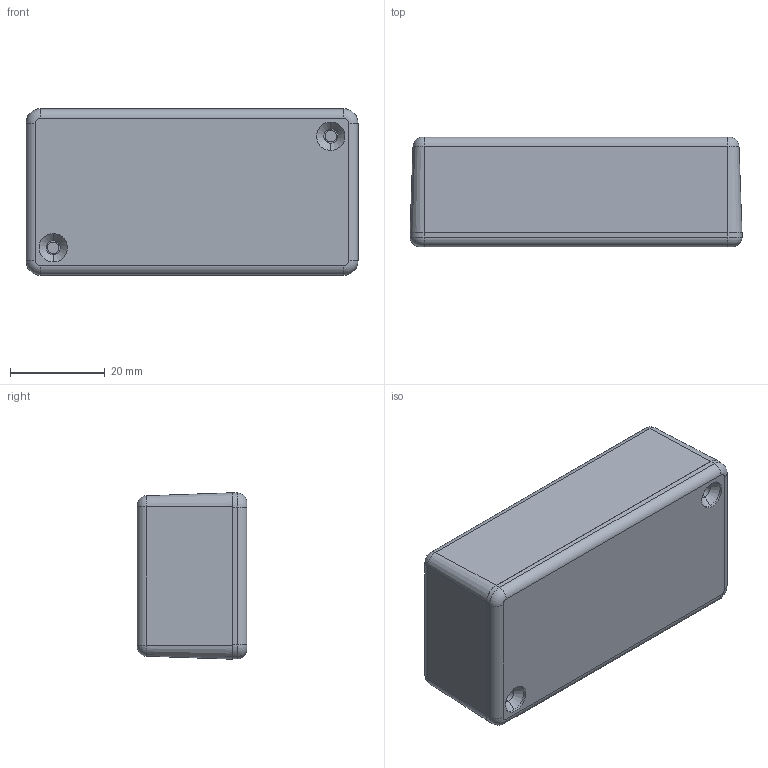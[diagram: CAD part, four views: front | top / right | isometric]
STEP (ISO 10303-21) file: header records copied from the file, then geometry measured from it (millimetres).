
FILE_DESCRIPTION (( 'STEP AP203' ), '1' );
FILE_NAME ('PH009.STEP', '2017-02-14T13:12:32', ( '' ), ( '' ), 'SwSTEP 2.0', 'SolidWorks 2015', '' );
FILE_SCHEMA (( 'CONFIG_CONTROL_DESIGN' ));
Length unit declared in the file: millimetre
Products named in the file (3): PH009
Assembly tree (2 placements, depth 2):
  PH009
    PH009
    PH009
Bounding box: 70 x 23.1 x 35.1 mm (x, y, z)
Volume: 17472 mm3; surface area: 20012 mm2
Topology: 2 solids, 2 shells, 132 faces, 315 edges, 202 vertices
Faces by surface type: plane 59, cylinder 45, cone 20, torus 8
Entity records: 4150 total; most frequent: DIRECTION 719, CARTESIAN_POINT 654, ORIENTED_EDGE 630, EDGE_CURVE 315, AXIS2_PLACEMENT_3D 267, VERTEX_POINT 202, LINE 185, VECTOR 185
